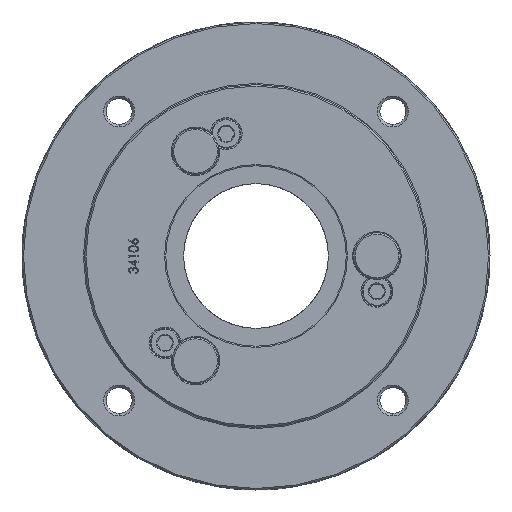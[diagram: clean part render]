
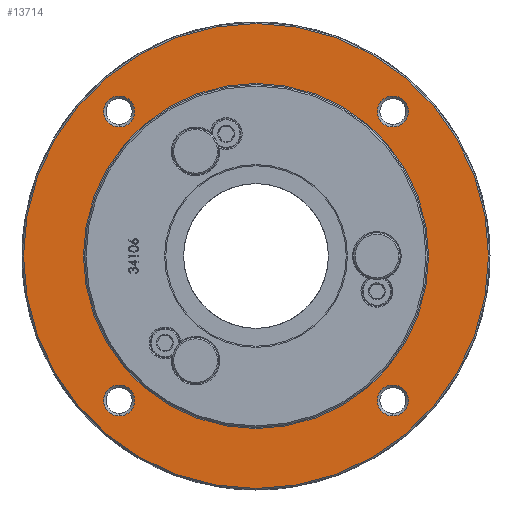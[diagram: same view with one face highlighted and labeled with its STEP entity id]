
A CAD part, left-side view. The second image highlights one B-rep face of the part: STEP entity #13714.
In plain terms, the highlighted planar face has unit normal (-1, 0, 0).
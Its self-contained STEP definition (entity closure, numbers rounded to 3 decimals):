
#34 = EDGE_CURVE ( 'NONE', #13218, #13203, #13616, .T. ) ;
#44 = EDGE_CURVE ( 'NONE', #13232, #13235, #13632, .T. ) ;
#54 = EDGE_CURVE ( 'NONE', #13249, #13248, #13648, .T. ) ;
#64 = EDGE_CURVE ( 'NONE', #13280, #13296, #13664, .T. ) ;
#176 = AXIS2_PLACEMENT_3D ( 'NONE', #5926, #5927, #5928 ) ;
#180 = AXIS2_PLACEMENT_3D ( 'NONE', #5950, #5951, #5952 ) ;
#184 = AXIS2_PLACEMENT_3D ( 'NONE', #5974, #5975, #5976 ) ;
#188 = AXIS2_PLACEMENT_3D ( 'NONE', #5999, #6000, #6001 ) ;
#324 = AXIS2_PLACEMENT_3D ( 'NONE', #2327, #2328, #2329 ) ;
#325 = AXIS2_PLACEMENT_3D ( 'NONE', #2330, #2331, #2332 ) ;
#326 = AXIS2_PLACEMENT_3D ( 'NONE', #2333, #2334, #2335 ) ;
#327 = AXIS2_PLACEMENT_3D ( 'NONE', #2336, #2337, #2338 ) ;
#328 = AXIS2_PLACEMENT_3D ( 'NONE', #2339, #2340, #2341 ) ;
#329 = AXIS2_PLACEMENT_3D ( 'NONE', #2343, #2344, #2345 ) ;
#689 = CIRCLE ( 'NONE', #325, 78.875 ) ;
#698 = CIRCLE ( 'NONE', #324, 58.531 ) ;
#699 = CIRCLE ( 'NONE', #326, 5.25 ) ;
#701 = CIRCLE ( 'NONE', #327, 5.25 ) ;
#702 = CIRCLE ( 'NONE', #328, 5.25 ) ;
#703 = CIRCLE ( 'NONE', #329, 5.25 ) ;
#1191 = CIRCLE ( 'NONE', #4397, 58.531 ) ;
#1203 = CIRCLE ( 'NONE', #4404, 78.875 ) ;
#2327 = CARTESIAN_POINT ( 'NONE',  ( -28.45, 0., 0. ) ) ;
#2328 = DIRECTION ( 'NONE',  ( 1., 0., 0. ) ) ;
#2329 = DIRECTION ( 'NONE',  ( 0., 0., -1. ) ) ;
#2330 = CARTESIAN_POINT ( 'NONE',  ( -28.45, 0., 0. ) ) ;
#2331 = DIRECTION ( 'NONE',  ( -1., 0., 0. ) ) ;
#2332 = DIRECTION ( 'NONE',  ( 0., 0., -1. ) ) ;
#2333 = CARTESIAN_POINT ( 'NONE',  ( -28.45, -46.413, 49.011 ) ) ;
#2334 = DIRECTION ( 'NONE',  ( 1., 0., 0. ) ) ;
#2335 = DIRECTION ( 'NONE',  ( 0., 0., -1. ) ) ;
#2336 = CARTESIAN_POINT ( 'NONE',  ( -28.45, -46.413, -49.011 ) ) ;
#2337 = DIRECTION ( 'NONE',  ( 1., 0., 0. ) ) ;
#2338 = DIRECTION ( 'NONE',  ( 0., 0., -1. ) ) ;
#2339 = CARTESIAN_POINT ( 'NONE',  ( -28.45, 46.413, -49.011 ) ) ;
#2340 = DIRECTION ( 'NONE',  ( 1., 0., 0. ) ) ;
#2341 = DIRECTION ( 'NONE',  ( 0., 0., -1. ) ) ;
#2343 = CARTESIAN_POINT ( 'NONE',  ( -28.45, 46.413, 49.011 ) ) ;
#2344 = DIRECTION ( 'NONE',  ( 1., 0., 0. ) ) ;
#2345 = DIRECTION ( 'NONE',  ( 0., 0., -1. ) ) ;
#4397 = AXIS2_PLACEMENT_3D ( 'NONE', #5094, #5095, #5096 ) ;
#4404 = AXIS2_PLACEMENT_3D ( 'NONE', #5124, #5125, #5126 ) ;
#4569 = AXIS2_PLACEMENT_3D ( 'NONE', #7175, #7176, #7177 ) ;
#5094 = CARTESIAN_POINT ( 'NONE',  ( -28.45, 0., 0. ) ) ;
#5095 = DIRECTION ( 'NONE',  ( 1., 0., 0. ) ) ;
#5096 = DIRECTION ( 'NONE',  ( 0., 0., -1. ) ) ;
#5124 = CARTESIAN_POINT ( 'NONE',  ( -28.45, 0., 0. ) ) ;
#5125 = DIRECTION ( 'NONE',  ( -1., 0., 0. ) ) ;
#5126 = DIRECTION ( 'NONE',  ( 0., 0., -1. ) ) ;
#5700 = CARTESIAN_POINT ( 'NONE',  ( -28.45, -46.413, 43.761 ) ) ;
#5715 = CARTESIAN_POINT ( 'NONE',  ( -28.45, -46.413, 54.261 ) ) ;
#5723 = CARTESIAN_POINT ( 'NONE',  ( -28.45, 0., -78.875 ) ) ;
#5729 = CARTESIAN_POINT ( 'NONE',  ( -28.45, -46.413, -43.761 ) ) ;
#5732 = CARTESIAN_POINT ( 'NONE',  ( -28.45, -46.413, -54.261 ) ) ;
#5745 = CARTESIAN_POINT ( 'NONE',  ( -28.45, 46.413, -54.261 ) ) ;
#5746 = CARTESIAN_POINT ( 'NONE',  ( -28.45, 46.413, -43.761 ) ) ;
#5762 = CARTESIAN_POINT ( 'NONE',  ( -28.45, 0., -58.531 ) ) ;
#5769 = CARTESIAN_POINT ( 'NONE',  ( -28.45, 0., 78.875 ) ) ;
#5777 = CARTESIAN_POINT ( 'NONE',  ( -28.45, 46.413, 54.261 ) ) ;
#5780 = CARTESIAN_POINT ( 'NONE',  ( -28.45, 0., 58.531 ) ) ;
#5793 = CARTESIAN_POINT ( 'NONE',  ( -28.45, 46.413, 43.761 ) ) ;
#5926 = CARTESIAN_POINT ( 'NONE',  ( -28.45, -46.413, 49.011 ) ) ;
#5927 = DIRECTION ( 'NONE',  ( 1., 0., 0. ) ) ;
#5928 = DIRECTION ( 'NONE',  ( 0., 0., -1. ) ) ;
#5950 = CARTESIAN_POINT ( 'NONE',  ( -28.45, -46.413, -49.011 ) ) ;
#5951 = DIRECTION ( 'NONE',  ( 1., 0., 0. ) ) ;
#5952 = DIRECTION ( 'NONE',  ( 0., 0., -1. ) ) ;
#5974 = CARTESIAN_POINT ( 'NONE',  ( -28.45, 46.413, -49.011 ) ) ;
#5975 = DIRECTION ( 'NONE',  ( 1., 0., 0. ) ) ;
#5976 = DIRECTION ( 'NONE',  ( 0., 0., -1. ) ) ;
#5999 = CARTESIAN_POINT ( 'NONE',  ( -28.45, 46.413, 49.011 ) ) ;
#6000 = DIRECTION ( 'NONE',  ( 1., 0., 0. ) ) ;
#6001 = DIRECTION ( 'NONE',  ( 0., 0., -1. ) ) ;
#6382 = FACE_BOUND ( 'NONE', #12525, .T. ) ;
#6383 = FACE_BOUND ( 'NONE', #12527, .T. ) ;
#6384 = FACE_BOUND ( 'NONE', #12523, .T. ) ;
#6385 = FACE_BOUND ( 'NONE', #12526, .T. ) ;
#6387 = FACE_OUTER_BOUND ( 'NONE', #12530, .T. ) ;
#6388 = FACE_BOUND ( 'NONE', #12520, .T. ) ;
#7167 = PLANE ( 'NONE',  #4569 ) ;
#7175 = CARTESIAN_POINT ( 'NONE',  ( -28.45, 58.15, 0. ) ) ;
#7176 = DIRECTION ( 'NONE',  ( 1., 0., 0. ) ) ;
#7177 = DIRECTION ( 'NONE',  ( 0., 0., -1. ) ) ;
#8201 = EDGE_CURVE ( 'NONE', #13265, #13283, #698, .T. ) ;
#8202 = EDGE_CURVE ( 'NONE', #13226, #13272, #689, .T. ) ;
#8203 = EDGE_CURVE ( 'NONE', #13203, #13218, #699, .T. ) ;
#8204 = EDGE_CURVE ( 'NONE', #13235, #13232, #701, .T. ) ;
#8205 = EDGE_CURVE ( 'NONE', #13248, #13249, #702, .T. ) ;
#8206 = EDGE_CURVE ( 'NONE', #13296, #13280, #703, .T. ) ;
#10712 = EDGE_CURVE ( 'NONE', #13283, #13265, #1191, .T. ) ;
#10722 = EDGE_CURVE ( 'NONE', #13272, #13226, #1203, .T. ) ;
#11458 = ORIENTED_EDGE ( 'NONE', *, *, #8201, .T. ) ;
#11459 = ORIENTED_EDGE ( 'NONE', *, *, #10712, .T. ) ;
#11460 = ORIENTED_EDGE ( 'NONE', *, *, #8202, .T. ) ;
#11461 = ORIENTED_EDGE ( 'NONE', *, *, #10722, .T. ) ;
#11462 = ORIENTED_EDGE ( 'NONE', *, *, #34, .T. ) ;
#11463 = ORIENTED_EDGE ( 'NONE', *, *, #8203, .T. ) ;
#11464 = ORIENTED_EDGE ( 'NONE', *, *, #44, .T. ) ;
#11465 = ORIENTED_EDGE ( 'NONE', *, *, #8204, .T. ) ;
#11466 = ORIENTED_EDGE ( 'NONE', *, *, #54, .T. ) ;
#11467 = ORIENTED_EDGE ( 'NONE', *, *, #8205, .T. ) ;
#11468 = ORIENTED_EDGE ( 'NONE', *, *, #64, .T. ) ;
#11469 = ORIENTED_EDGE ( 'NONE', *, *, #8206, .T. ) ;
#12520 = EDGE_LOOP ( 'NONE', ( #11468, #11469 ) ) ;
#12523 = EDGE_LOOP ( 'NONE', ( #11462, #11463 ) ) ;
#12525 = EDGE_LOOP ( 'NONE', ( #11464, #11465 ) ) ;
#12526 = EDGE_LOOP ( 'NONE', ( #11466, #11467 ) ) ;
#12527 = EDGE_LOOP ( 'NONE', ( #11458, #11459 ) ) ;
#12530 = EDGE_LOOP ( 'NONE', ( #11460, #11461 ) ) ;
#13203 = VERTEX_POINT ( 'NONE', #5700 ) ;
#13218 = VERTEX_POINT ( 'NONE', #5715 ) ;
#13226 = VERTEX_POINT ( 'NONE', #5723 ) ;
#13232 = VERTEX_POINT ( 'NONE', #5729 ) ;
#13235 = VERTEX_POINT ( 'NONE', #5732 ) ;
#13248 = VERTEX_POINT ( 'NONE', #5745 ) ;
#13249 = VERTEX_POINT ( 'NONE', #5746 ) ;
#13265 = VERTEX_POINT ( 'NONE', #5762 ) ;
#13272 = VERTEX_POINT ( 'NONE', #5769 ) ;
#13280 = VERTEX_POINT ( 'NONE', #5777 ) ;
#13283 = VERTEX_POINT ( 'NONE', #5780 ) ;
#13296 = VERTEX_POINT ( 'NONE', #5793 ) ;
#13616 = CIRCLE ( 'NONE', #176, 5.25 ) ;
#13632 = CIRCLE ( 'NONE', #180, 5.25 ) ;
#13648 = CIRCLE ( 'NONE', #184, 5.25 ) ;
#13664 = CIRCLE ( 'NONE', #188, 5.25 ) ;
#13714 = ADVANCED_FACE ( 'NONE', ( #6383, #6387, #6384, #6382, #6385, #6388 ), #7167, .F. ) ;
